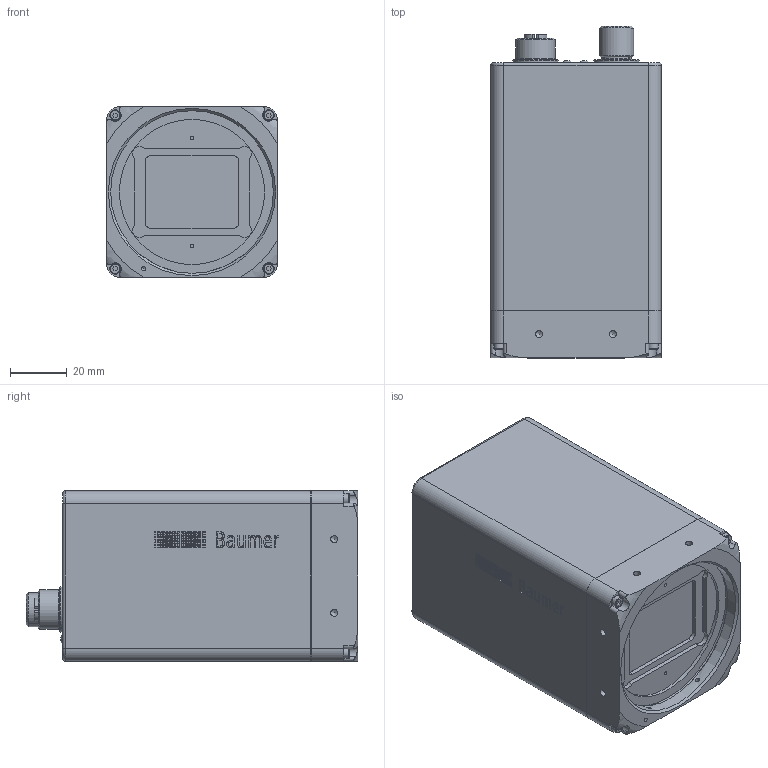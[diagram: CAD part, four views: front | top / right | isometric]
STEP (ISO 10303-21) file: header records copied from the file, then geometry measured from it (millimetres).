
FILE_DESCRIPTION(/* description */ ('Unknown'),/* implementation_level */ '2;1');
FILE_NAME(/* name */ 'VLXT-650M.I',/* time_stamp */ '2021-02-26T14:30:20+01:00',/* author */ ('Unknown'),/* organization */ ('Baumer'),/* preprocessor_version */ 'ST-DEVELOPER v16.7',/* originating_system */ 'Solid Edge',/* authorisation */ 'Unknown');
FILE_SCHEMA (('AUTOMOTIVE_DESIGN {1 0 10303 214 3 1 1}'));
Length unit declared in the file: millimetre
Products named in the file (1): D0001006405-DBG VLXT-650M.I STEP
Bounding box: 60 x 116.72 x 60 mm (x, y, z)
Volume: 351018.6 mm3; surface area: 41457 mm2
Topology: 1 solids, 12 shells, 1343 faces, 2905 edges, 1917 vertices
Faces by surface type: plane 604, cylinder 561, torus 72, bspline 63, cone 26, sphere 17
Full cylindrical faces by diameter (mm): 0.306 x20, 0.385 x20, 0.464 x20, 0.542 x20, 0.621 x20, 0.63 x12, 0.699 x20, 0.7 x8, 0.778 x20, 0.856 x20, 1.221 x2, 1.24 x8, 1.567 x2, 2 x6, 2.4 x4, 2.459 x20, 3.4 x2, 3.8 x4, 8 x2, 8.25 x1, 8.3 x1, 8.4 x1, 9 x1, 9.3 x2, 9.4 x2, 10.75 x1, 12 x3, 13.3 x2, 14 x1, 14.3 x2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
Entity records: 48543 total; most frequent: CARTESIAN_POINT 10974, DIRECTION 6019, ORIENTED_EDGE 4954, EDGE_CURVE 2477, AXIS2_PLACEMENT_3D 2464, FACE_BOUND 2044, EDGE_LOOP 2034, VERTEX_POINT 1837
